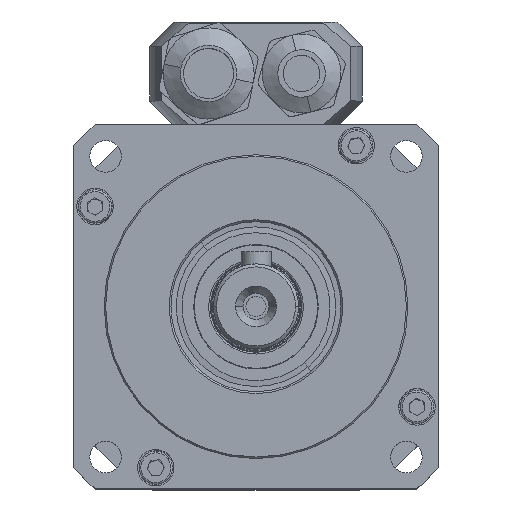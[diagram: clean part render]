
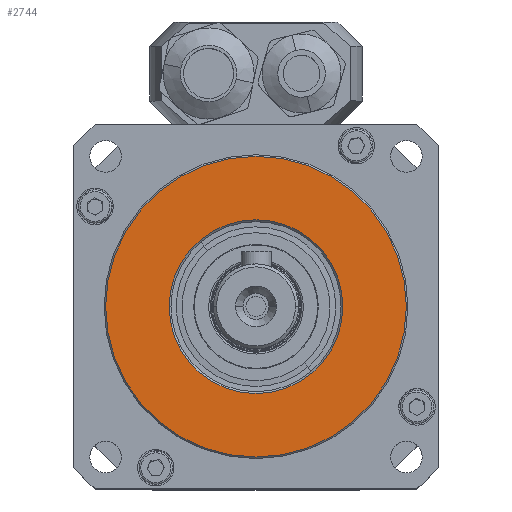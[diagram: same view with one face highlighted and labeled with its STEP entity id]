
A CAD part, top view. The second image highlights one B-rep face of the part: STEP entity #2744.
In plain terms, the highlighted planar face has unit normal (0, 0, 1).
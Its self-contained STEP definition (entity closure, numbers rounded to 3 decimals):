
#966 = EDGE_LOOP ( 'NONE', ( #6640, #6639 ) ) ;
#968 = EDGE_LOOP ( 'NONE', ( #6642, #6641 ) ) ;
#1143 = DIRECTION ( 'NONE',  ( 1., 0., 0. ) ) ;
#1144 = DIRECTION ( 'NONE',  ( 0., 0., 1. ) ) ;
#1147 = PLANE ( 'NONE',  #14697 ) ;
#1148 = CARTESIAN_POINT ( 'NONE',  ( 0., 0., 9.5 ) ) ;
#2198 = CARTESIAN_POINT ( 'NONE',  ( 24.75, 0., 9.5 ) ) ;
#2744 = ADVANCED_FACE ( 'NONE', ( #11943, #11950 ), #1147, .T. ) ;
#3845 = DIRECTION ( 'NONE',  ( 1., 0., 0. ) ) ;
#3850 = DIRECTION ( 'NONE',  ( 0., 0., 1. ) ) ;
#3862 = CARTESIAN_POINT ( 'NONE',  ( 0., 0., 9.5 ) ) ;
#4250 = DIRECTION ( 'NONE',  ( 1., 0., 0. ) ) ;
#4253 = DIRECTION ( 'NONE',  ( 0., 0., -1. ) ) ;
#4299 = CARTESIAN_POINT ( 'NONE',  ( 0., 0., 9.5 ) ) ;
#4483 = DIRECTION ( 'NONE',  ( 1., 0., 0. ) ) ;
#4485 = DIRECTION ( 'NONE',  ( 0., 0., -1. ) ) ;
#4492 = CARTESIAN_POINT ( 'NONE',  ( 0., 0., 9.5 ) ) ;
#6639 = ORIENTED_EDGE ( 'NONE', *, *, #9071, .T. ) ;
#6640 = ORIENTED_EDGE ( 'NONE', *, *, #9097, .T. ) ;
#6641 = ORIENTED_EDGE ( 'NONE', *, *, #9117, .T. ) ;
#6642 = ORIENTED_EDGE ( 'NONE', *, *, #9043, .T. ) ;
#7836 = VERTEX_POINT ( 'NONE', #16329 ) ;
#7913 = VERTEX_POINT ( 'NONE', #16239 ) ;
#7925 = VERTEX_POINT ( 'NONE', #16225 ) ;
#9043 = EDGE_CURVE ( 'NONE', #7913, #18322, #9661, .T. ) ;
#9071 = EDGE_CURVE ( 'NONE', #7836, #7925, #9701, .T. ) ;
#9097 = EDGE_CURVE ( 'NONE', #7925, #7836, #9739, .T. ) ;
#9117 = EDGE_CURVE ( 'NONE', #18322, #7913, #9764, .T. ) ;
#9661 = CIRCLE ( 'NONE', #14739, 24.75 ) ;
#9701 = CIRCLE ( 'NONE', #14755, 14.3 ) ;
#9739 = CIRCLE ( 'NONE', #14770, 14.3 ) ;
#9764 = CIRCLE ( 'NONE', #14780, 24.75 ) ;
#11943 = FACE_OUTER_BOUND ( 'NONE', #968, .T. ) ;
#11950 = FACE_BOUND ( 'NONE', #966, .T. ) ;
#14697 = AXIS2_PLACEMENT_3D ( 'NONE', #1148, #1144, #1143 ) ;
#14739 = AXIS2_PLACEMENT_3D ( 'NONE', #15278, #15276, #15275 ) ;
#14755 = AXIS2_PLACEMENT_3D ( 'NONE', #4492, #4485, #4483 ) ;
#14770 = AXIS2_PLACEMENT_3D ( 'NONE', #4299, #4253, #4250 ) ;
#14780 = AXIS2_PLACEMENT_3D ( 'NONE', #3862, #3850, #3845 ) ;
#15275 = DIRECTION ( 'NONE',  ( 1., 0., 0. ) ) ;
#15276 = DIRECTION ( 'NONE',  ( 0., 0., 1. ) ) ;
#15278 = CARTESIAN_POINT ( 'NONE',  ( 0., 0., 9.5 ) ) ;
#16225 = CARTESIAN_POINT ( 'NONE',  ( 14.3, 0., 9.5 ) ) ;
#16239 = CARTESIAN_POINT ( 'NONE',  ( -24.75, 0., 9.5 ) ) ;
#16329 = CARTESIAN_POINT ( 'NONE',  ( -14.3, 0., 9.5 ) ) ;
#18322 = VERTEX_POINT ( 'NONE', #2198 ) ;
